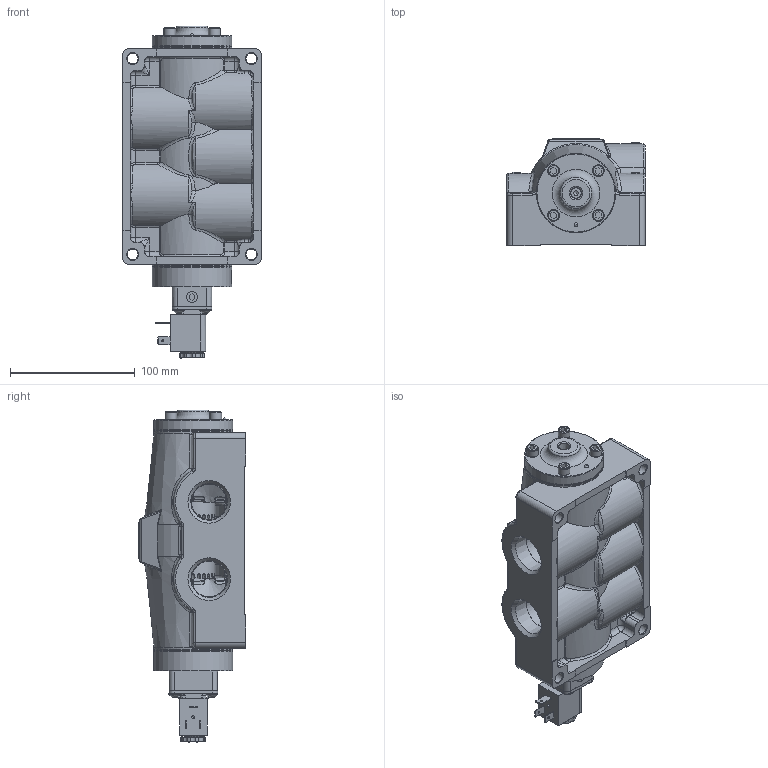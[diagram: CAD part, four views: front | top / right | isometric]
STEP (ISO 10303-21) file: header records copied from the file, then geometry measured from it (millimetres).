
FILE_DESCRIPTION(/* description */ (''),/* implementation_level */ '2;1');
FILE_NAME(/* name */ 'D:\Website Files\stp\Valves\Standard\ESR\ESR8Z.stp',/* time_stamp */ '2019-02-10T12:34:42-05:00',/* author */ ('RMcKenna'),/* organization */ (''),/* preprocessor_version */ 'ST-DEVELOPER v17',/* originating_system */ 'Autodesk Inventor 2018',/* authorisation */ '');
FILE_SCHEMA (('AUTOMOTIVE_DESIGN { 1 0 10303 214 3 1 1 }'));
Products named in the file (1): Part9
Bounding box: 111.12 x 86.28 x 266.4 mm (x, y, z)
Volume: 1021057.9 mm3; surface area: 205056.2 mm2
Topology: 1 solids, 34 shells, 2538 faces, 6272 edges, 3905 vertices
Faces by surface type: plane 901, cylinder 665, cone 340, bspline 335, torus 208, sphere 89
Full cylindrical faces by diameter (mm): 1.3 x1, 1.397 x1, 1.5 x2, 1.651 x3, 2.032 x4, 2.07 x2, 2.261 x2, 2.35 x4, 2.388 x1, 2.464 x1, 2.778 x2, 2.8 x1, 2.819 x1, 3 x4, 3.048 x3, 3.175 x2, 3.4 x1, 3.683 x5, 3.962 x4, 3.988 x1, 4.191 x2, 4.305 x1, 4.826 x4, 4.953 x1, 4.978 x8, 5.15 x4, 5.156 x4, 5.5 x1, 6.35 x8, 6.553 x1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
Entity records: 101262 total; most frequent: CARTESIAN_POINT 40253, ORIENTED_EDGE 12382, DIRECTION 11830, EDGE_CURVE 6191, AXIS2_PLACEMENT_3D 4660, VERTEX_POINT 3903, EDGE_LOOP 2796, FACE_OUTER_BOUND 2538
